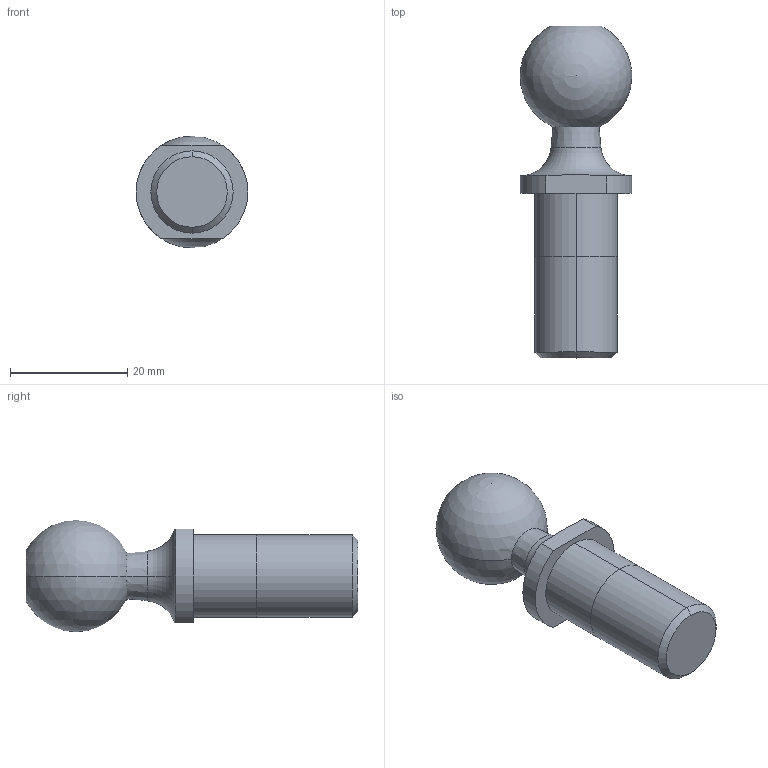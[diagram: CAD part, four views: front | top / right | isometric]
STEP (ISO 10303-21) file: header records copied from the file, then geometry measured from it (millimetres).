
FILE_DESCRIPTION (( 'STEP AP203' ), '1' );
FILE_NAME ('65550.W0015.step', '2014-02-03T10:41:34', ( 'User' ), ( '' ), 'SwSTEP 2.0', 'SolidWorks 2009', '' );
FILE_SCHEMA (( 'CONFIG_CONTROL_DESIGN' ));
Length unit declared in the file: millimetre
Products named in the file (1): 65550.W0015
Bounding box: 19 x 56.5 x 19 mm (x, y, z)
Volume: 9278.6 mm3; surface area: 3103.2 mm2
Topology: 1 solids, 1 shells, 20 faces, 47 edges, 29 vertices
Faces by surface type: cylinder 6, plane 6, cone 4, sphere 2, torus 2
Entity records: 639 total; most frequent: CARTESIAN_POINT 111, DIRECTION 108, ORIENTED_EDGE 84, AXIS2_PLACEMENT_3D 47, EDGE_CURVE 42, VERTEX_POINT 26, CIRCLE 26, EDGE_LOOP 22
